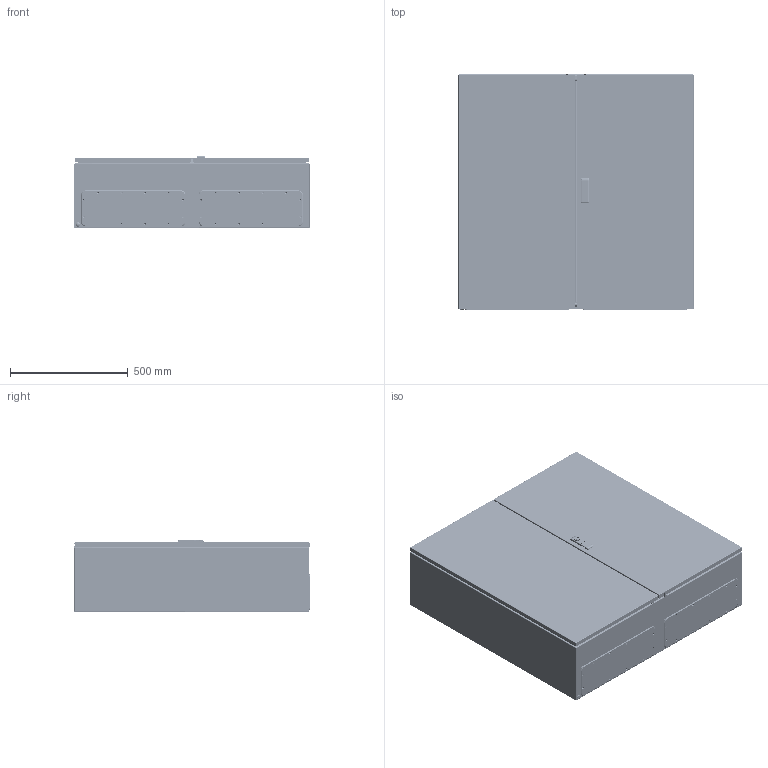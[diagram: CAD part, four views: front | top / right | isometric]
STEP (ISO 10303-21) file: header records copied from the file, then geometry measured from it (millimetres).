
FILE_DESCRIPTION (( 'STEP AP203' ), '1' );
FILE_NAME ('R5ST1013.STEP', '2022-04-28T13:53:45', ( '' ), ( '' ), 'SwSTEP 2.0', 'SolidWorks 2020', '' );
FILE_SCHEMA (( 'CONFIG_CONTROL_DESIGN' ));
Length unit declared in the file: millimetre
Products named in the file (47): AC00C387-R; 4,2x13 DIN 7981 C PZ Zinc; RB.0048.11.01.0_-03; R5ST1013; RB.1175.01.00.0 捘; A7100032-R; RB.1175.06.01.0; M8 DIN 6923 cl.8,0 Zinc_straight; RB.0048.11.00.0 C縫-03; PT Ì6õ16 Cu ISO13918_straight; RB.1175.04.00.0 捘; RB.1175.03.00.0 捘; AC00C504-R; AC00C402-R; A6100138-R; Sealing double ST 15x8_02; RB.2237.00.00.0; Ì6õ12 A5100231_straight; RB.1175.02.01.0; PF 7.5x15 ST-DD_02; RB.2070.00.00.0; AC00C317-R; AC00C390-R; AC00C540-R; M4x6 DIN 7985 PH cl.4,8 Zinc_straight; RB.1175.05.00.0 捘; PF 4x8 flange ST_03; AC00C539-R; AC00C380-R; PT Ì8õ25 cl.4.8 Cu ISO13918_straight; RB.1175.06.00.0 捘; RB.2171.00.01.0; M4x10 DIN 7500 M PZ cl.4,8 Zinc_straight; RB.2027.00.00.0_-02; AC00C400-R; AC00C316-R; RB.2238.00.00.0; RB.0048.00.02.1_-14; M6 DIN 6923 cl.8,0 Zinc_straight; AC00C389-R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
Assembly tree (107 placements, depth 4):
  R5ST1013
    RB.1175.01.00.0 捘
      RB.1175.02.00.0 捘
        RB.1175.02.01.0
        RB.0048.01.02.0_-16
        PT Ì6õ16 Cu ISO13918_straight  x4
        PT Ì8õ25 cl.4.8 Cu ISO13918_straight  x4
      RB.0048.11.00.0 C縫-03  x2
        RB.0048.11.01.0_-03
        PF 4x8 flange ST_03
      RB.2171.00.00.0 捘  x6
        RB.2171.00.01.0
        Pin 1.2x12 GOST 3128-70
      AC00C317-R  x4
      AC00C316-R
      M4x6 DIN 7985 PH cl.4,8 Zinc_straight  x6
      M4x10 DIN 7500 M PZ cl.4,8 Zinc_straight  x4
      AC00C402-R  x2
    RB.1175.03.00.0 捘
      RB.1175.04.00.0 捘
        RB.1175.04.01.0
        RB.2237.00.00.0  x3
        Ì6õ12 A5100231_straight  x4
        RB.2027.00.00.0_-02  x2
      PF 7.5x15 ST-DD_02
      AC00C539-R
      AC00C540-R
      AC00C387-R
      4,2x13 DIN 7981 C PZ Zinc  x4
      AC00C832-R
      AC00C390-R  x2
      AC00C400-R  x4
      M6 DIN 6923 cl.8,0 Zinc_straight  x4
      A6100138-R
      AC00C504-R
      AC00C389-R
      A7100032-R
      AC00C388-R
    RB.1175.05.00.0 捘
      RB.1175.06.00.0 捘
        RB.1175.06.01.0
        RB.2237.00.00.0  x3
        RB.2027.00.00.0_-02  x2
      PF 7.5x15 ST-DD_02
      Sealing double ST 15x8_02
    RB.2238.00.00.0  x6
    AC00C380-R  x4
    RB.0048.00.02.1_-14
    RB.2070.00.00.0  x4
    M8 DIN 6923 cl.8,0 Zinc_straight  x4
Bounding box: 1000 x 1006.4 x 309.43 mm (x, y, z)
Volume: 6987013 mm3; surface area: 9427475.9 mm2
Topology: 113 solids, 121 shells, 6837 faces, 16814 edges, 10453 vertices
Faces by surface type: plane 3567, cylinder 1870, torus 571, cone 452, bspline 247, sphere 130
Entity records: 132475 total; most frequent: CARTESIAN_POINT 28719, ORIENTED_EDGE 20044, DIRECTION 19825, EDGE_CURVE 10023, LINE 7279, VECTOR 7279, VERTEX_POINT 6399, AXIS2_PLACEMENT_3D 6273
